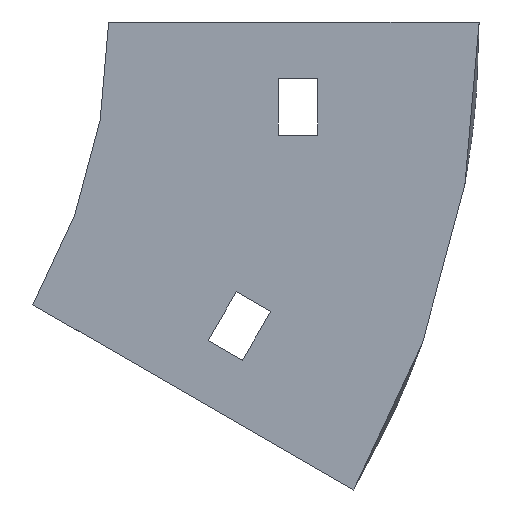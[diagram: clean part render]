
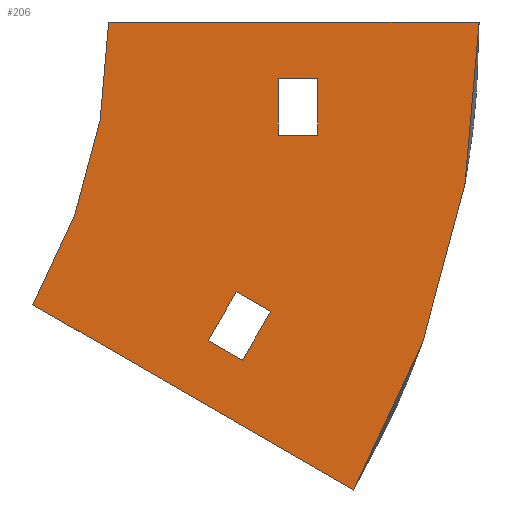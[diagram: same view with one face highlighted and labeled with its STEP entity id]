
A CAD part, left-side view. The second image highlights one B-rep face of the part: STEP entity #206.
In plain terms, the highlighted planar face has unit normal (-1, 0, 0).
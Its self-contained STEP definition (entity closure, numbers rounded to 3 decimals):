
#2 = LINE ( 'NONE', #361, #9 ) ;
#9 = VECTOR ( 'NONE', #1070, 1000. ) ;
#23 = DIRECTION ( 'NONE',  ( 0., -0.5, 0.866 ) ) ;
#78 = VECTOR ( 'NONE', #125, 1000. ) ;
#80 = ORIENTED_EDGE ( 'NONE', *, *, #1020, .T. ) ;
#93 = VERTEX_POINT ( 'NONE', #727 ) ;
#125 = DIRECTION ( 'NONE',  ( 0., 0., -1. ) ) ;
#138 = ORIENTED_EDGE ( 'NONE', *, *, #1141, .F. ) ;
#143 = ORIENTED_EDGE ( 'NONE', *, *, #829, .F. ) ;
#146 = CARTESIAN_POINT ( 'NONE',  ( -302., -37., -10. ) ) ;
#153 = CARTESIAN_POINT ( 'NONE',  ( -302., 100., 0. ) ) ;
#159 = CIRCLE ( 'NONE', #307, 100. ) ;
#178 = CARTESIAN_POINT ( 'NONE',  ( -302., -22.583, -47.679 ) ) ;
#199 = FACE_BOUND ( 'NONE', #617, .T. ) ;
#206 = ADVANCED_FACE ( 'NONE', ( #462, #721, #199 ), #724, .F. ) ;
#214 = CARTESIAN_POINT ( 'NONE',  ( -302., -23.645, -59.84 ) ) ;
#221 = CARTESIAN_POINT ( 'NONE',  ( -302., 13.397, -50. ) ) ;
#224 = LINE ( 'NONE', #1113, #713 ) ;
#226 = LINE ( 'NONE', #214, #896 ) ;
#228 = ORIENTED_EDGE ( 'NONE', *, *, #613, .F. ) ;
#234 = AXIS2_PLACEMENT_3D ( 'NONE', #153, #1132, #967 ) ;
#241 = VERTEX_POINT ( 'NONE', #642 ) ;
#247 = DIRECTION ( 'NONE',  ( 0., 0.866, 0.5 ) ) ;
#260 = EDGE_CURVE ( 'NONE', #350, #973, #159, .T. ) ;
#276 = VECTOR ( 'NONE', #879, 1000. ) ;
#287 = DIRECTION ( 'NONE',  ( 0., 0., -1. ) ) ;
#288 = EDGE_CURVE ( 'NONE', #659, #1057, #2, .T. ) ;
#291 = CARTESIAN_POINT ( 'NONE',  ( -302., 100., 0. ) ) ;
#307 = AXIS2_PLACEMENT_3D ( 'NONE', #291, #455, #983 ) ;
#328 = VERTEX_POINT ( 'NONE', #734 ) ;
#346 = DIRECTION ( 'NONE',  ( 0., -1., 0. ) ) ;
#350 = VERTEX_POINT ( 'NONE', #221 ) ;
#361 = CARTESIAN_POINT ( 'NONE',  ( -302., -17.583, -56.34 ) ) ;
#422 = EDGE_CURVE ( 'NONE', #443, #328, #1004, .T. ) ;
#443 = VERTEX_POINT ( 'NONE', #592 ) ;
#450 = ORIENTED_EDGE ( 'NONE', *, *, #530, .F. ) ;
#455 = DIRECTION ( 'NONE',  ( -1., 0., 0. ) ) ;
#462 = FACE_OUTER_BOUND ( 'NONE', #872, .T. ) ;
#496 = EDGE_CURVE ( 'NONE', #531, #93, #653, .T. ) ;
#499 = CARTESIAN_POINT ( 'NONE',  ( -302., -65.5, 0. ) ) ;
#513 = VECTOR ( 'NONE', #1026, 1000. ) ;
#530 = EDGE_CURVE ( 'NONE', #1057, #702, #594, .T. ) ;
#531 = VERTEX_POINT ( 'NONE', #606 ) ;
#544 = ORIENTED_EDGE ( 'NONE', *, *, #1100, .F. ) ;
#545 = VECTOR ( 'NONE', #641, 1000. ) ;
#576 = EDGE_CURVE ( 'NONE', #797, #241, #866, .T. ) ;
#589 = CARTESIAN_POINT ( 'NONE',  ( -302., -17.583, -56.34 ) ) ;
#592 = CARTESIAN_POINT ( 'NONE',  ( -302., -37., -20. ) ) ;
#594 = LINE ( 'NONE', #600, #276 ) ;
#600 = CARTESIAN_POINT ( 'NONE',  ( -302., -17.583, -56.34 ) ) ;
#606 = CARTESIAN_POINT ( 'NONE',  ( -302., -65.5, 0. ) ) ;
#609 = CARTESIAN_POINT ( 'NONE',  ( -302., -22.583, -47.679 ) ) ;
#613 = EDGE_CURVE ( 'NONE', #689, #659, #688, .T. ) ;
#617 = EDGE_LOOP ( 'NONE', ( #450, #775, #228, #143 ) ) ;
#641 = DIRECTION ( 'NONE',  ( 0., 0., 1. ) ) ;
#642 = CARTESIAN_POINT ( 'NONE',  ( -302., -37., -10. ) ) ;
#653 = CIRCLE ( 'NONE', #234, 165.5 ) ;
#657 = LINE ( 'NONE', #1010, #545 ) ;
#659 = VERTEX_POINT ( 'NONE', #609 ) ;
#688 = LINE ( 'NONE', #178, #959 ) ;
#689 = VERTEX_POINT ( 'NONE', #708 ) ;
#702 = VERTEX_POINT ( 'NONE', #1134 ) ;
#708 = CARTESIAN_POINT ( 'NONE',  ( -302., -28.645, -51.179 ) ) ;
#713 = VECTOR ( 'NONE', #861, 1000. ) ;
#721 = FACE_BOUND ( 'NONE', #1145, .T. ) ;
#724 = PLANE ( 'NONE',  #985 ) ;
#727 = CARTESIAN_POINT ( 'NONE',  ( -302., -43.327, -82.75 ) ) ;
#734 = CARTESIAN_POINT ( 'NONE',  ( -302., -30., -20. ) ) ;
#765 = LINE ( 'NONE', #499, #1114 ) ;
#775 = ORIENTED_EDGE ( 'NONE', *, *, #288, .F. ) ;
#791 = ORIENTED_EDGE ( 'NONE', *, *, #422, .T. ) ;
#797 = VERTEX_POINT ( 'NONE', #1017 ) ;
#829 = EDGE_CURVE ( 'NONE', #702, #689, #226, .T. ) ;
#850 = CARTESIAN_POINT ( 'NONE',  ( -302., 0., 0. ) ) ;
#858 = ORIENTED_EDGE ( 'NONE', *, *, #496, .F. ) ;
#861 = DIRECTION ( 'NONE',  ( 0., 0.866, 0.5 ) ) ;
#866 = LINE ( 'NONE', #1120, #975 ) ;
#872 = EDGE_LOOP ( 'NONE', ( #979, #544, #858, #138 ) ) ;
#879 = DIRECTION ( 'NONE',  ( 0., -0.866, -0.5 ) ) ;
#896 = VECTOR ( 'NONE', #23, 1000. ) ;
#897 = EDGE_CURVE ( 'NONE', #328, #797, #657, .T. ) ;
#901 = ORIENTED_EDGE ( 'NONE', *, *, #576, .T. ) ;
#932 = ORIENTED_EDGE ( 'NONE', *, *, #897, .T. ) ;
#935 = DIRECTION ( 'NONE',  ( 0., -1., 0. ) ) ;
#944 = LINE ( 'NONE', #146, #78 ) ;
#959 = VECTOR ( 'NONE', #247, 1000. ) ;
#967 = DIRECTION ( 'NONE',  ( 0., 0., -1. ) ) ;
#973 = VERTEX_POINT ( 'NONE', #850 ) ;
#975 = VECTOR ( 'NONE', #346, 1000. ) ;
#977 = CARTESIAN_POINT ( 'NONE',  ( -302., 100., 0. ) ) ;
#979 = ORIENTED_EDGE ( 'NONE', *, *, #260, .F. ) ;
#983 = DIRECTION ( 'NONE',  ( 0., 0., -1. ) ) ;
#985 = AXIS2_PLACEMENT_3D ( 'NONE', #977, #1081, #287 ) ;
#1004 = LINE ( 'NONE', #1110, #513 ) ;
#1010 = CARTESIAN_POINT ( 'NONE',  ( -302., -30., -10. ) ) ;
#1017 = CARTESIAN_POINT ( 'NONE',  ( -302., -30., -10. ) ) ;
#1020 = EDGE_CURVE ( 'NONE', #241, #443, #944, .T. ) ;
#1026 = DIRECTION ( 'NONE',  ( 0., 1., 0. ) ) ;
#1057 = VERTEX_POINT ( 'NONE', #589 ) ;
#1070 = DIRECTION ( 'NONE',  ( 0., 0.5, -0.866 ) ) ;
#1081 = DIRECTION ( 'NONE',  ( 1., 0., 0. ) ) ;
#1100 = EDGE_CURVE ( 'NONE', #93, #350, #224, .T. ) ;
#1110 = CARTESIAN_POINT ( 'NONE',  ( -302., -30., -20. ) ) ;
#1113 = CARTESIAN_POINT ( 'NONE',  ( -302., 13.397, -50. ) ) ;
#1114 = VECTOR ( 'NONE', #935, 1000. ) ;
#1120 = CARTESIAN_POINT ( 'NONE',  ( -302., -30., -10. ) ) ;
#1132 = DIRECTION ( 'NONE',  ( 1., 0., 0. ) ) ;
#1134 = CARTESIAN_POINT ( 'NONE',  ( -302., -23.645, -59.84 ) ) ;
#1141 = EDGE_CURVE ( 'NONE', #973, #531, #765, .T. ) ;
#1145 = EDGE_LOOP ( 'NONE', ( #932, #901, #80, #791 ) ) ;
